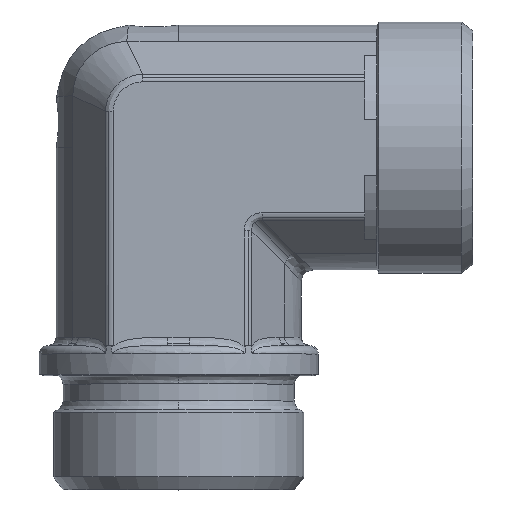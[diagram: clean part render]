
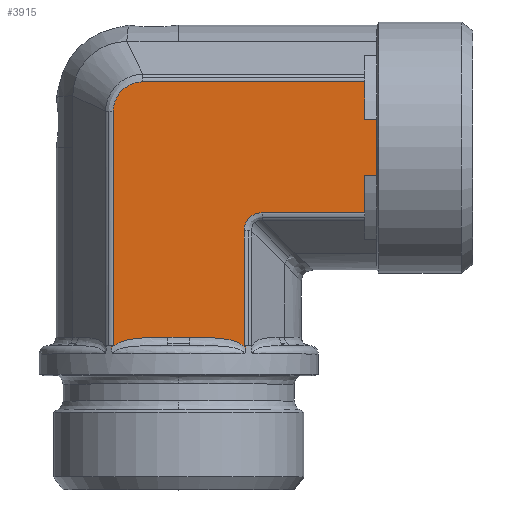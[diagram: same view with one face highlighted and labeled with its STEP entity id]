
A CAD part, top view. The second image highlights one B-rep face of the part: STEP entity #3915.
In plain terms, the highlighted planar face has unit normal (0, 0, 1) as drawn and (0, -1, 0) by its records, which use the part's own axes.
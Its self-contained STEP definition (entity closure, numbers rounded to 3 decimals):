
#319=CARTESIAN_POINT('',(9.429,-20.375,10.897));
#320=VERTEX_POINT('',#319);
#328=CARTESIAN_POINT('',(28.5,-20.375,10.897));
#329=VERTEX_POINT('',#328);
#330=CARTESIAN_POINT('',(9.429,-20.375,10.897));
#331=DIRECTION('',(1.0,0.0,0.0));
#332=VECTOR('',#331,19.071);
#333=LINE('',#330,#332);
#334=EDGE_CURVE('',#320,#329,#333,.T.);
#461=CARTESIAN_POINT('',(-15.397,-20.375,-5.976));
#462=VERTEX_POINT('',#461);
#470=CARTESIAN_POINT('',(-15.397,-20.375,31.0));
#471=VERTEX_POINT('',#470);
#472=CARTESIAN_POINT('',(-15.397,-20.375,-5.976));
#473=DIRECTION('',(0.0,0.0,1.0));
#474=VECTOR('',#473,36.976);
#475=LINE('',#472,#474);
#476=EDGE_CURVE('',#462,#471,#475,.T.);
#3416=CARTESIAN_POINT('',(27.1,-20.375,1.809));
#3417=VERTEX_POINT('',#3416);
#3425=CARTESIAN_POINT('',(27.1,-20.375,-1.809));
#3426=VERTEX_POINT('',#3425);
#3427=CARTESIAN_POINT('',(27.1,-20.375,1.809));
#3428=DIRECTION('',(0.0,0.0,-1.0));
#3429=VECTOR('',#3428,3.618);
#3430=LINE('',#3427,#3429);
#3431=EDGE_CURVE('',#3417,#3426,#3430,.T.);
#3554=CARTESIAN_POINT('',(28.956,-20.375,-11.199));
#3555=VERTEX_POINT('',#3554);
#3588=CARTESIAN_POINT('',(28.958,-20.375,-11.206));
#3589=CARTESIAN_POINT('',(28.504,-20.375,-10.859));
#3590=CARTESIAN_POINT('',(28.192,-20.375,-10.318));
#3591=CARTESIAN_POINT('',(27.439,-20.375,-8.56));
#3592=CARTESIAN_POINT('',(27.279,-20.375,-7.197));
#3593=CARTESIAN_POINT('',(27.133,-20.375,-5.037));
#3594=CARTESIAN_POINT('',(27.114,-20.375,-4.204));
#3595=CARTESIAN_POINT('',(27.101,-20.375,-2.85));
#3596=CARTESIAN_POINT('',(27.1,-20.375,-2.329));
#3597=CARTESIAN_POINT('',(27.1,-20.375,-1.809));
#3598=B_SPLINE_CURVE_WITH_KNOTS('',3,(#3588,#3589,#3590,#3591,#3592,#3593,#3594,#3595,#3596,#3597),.UNSPECIFIED.,.F.,.U.,(4,2,2,2,4),(2.698,4.434,8.431,10.929,12.49),.UNSPECIFIED.);
#3599=EDGE_CURVE('',#3426,#3555,#3598,.F.);
#3717=CARTESIAN_POINT('',(28.956,-20.375,11.199));
#3718=VERTEX_POINT('',#3717);
#3732=CARTESIAN_POINT('',(28.958,-20.375,11.206));
#3733=CARTESIAN_POINT('',(28.504,-20.375,10.859));
#3734=CARTESIAN_POINT('',(28.192,-20.375,10.318));
#3735=CARTESIAN_POINT('',(27.439,-20.375,8.56));
#3736=CARTESIAN_POINT('',(27.279,-20.375,7.197));
#3737=CARTESIAN_POINT('',(27.133,-20.375,5.037));
#3738=CARTESIAN_POINT('',(27.114,-20.375,4.204));
#3739=CARTESIAN_POINT('',(27.101,-20.375,2.85));
#3740=CARTESIAN_POINT('',(27.1,-20.375,2.329));
#3741=CARTESIAN_POINT('',(27.1,-20.375,1.809));
#3742=B_SPLINE_CURVE_WITH_KNOTS('',3,(#3732,#3733,#3734,#3735,#3736,#3737,#3738,#3739,#3740,#3741),.UNSPECIFIED.,.F.,.U.,(4,2,2,2,4),(-9.792,-8.056,-4.059,-1.561,0.),.UNSPECIFIED.);
#3743=EDGE_CURVE('',#3718,#3417,#3742,.T.);
#3789=CARTESIAN_POINT('',(-4.5,-20.375,-3.175));
#3790=DIRECTION('',(0.0,-1.0,0.0));
#3791=DIRECTION('',(0.0,0.0,-1.0));
#3792=AXIS2_PLACEMENT_3D('',#3789,#3790,#3791);
#3793=PLANE('',#3792);
#3794=ORIENTED_EDGE('',*,*,#3599,.F.);
#3795=ORIENTED_EDGE('',*,*,#3431,.F.);
#3796=ORIENTED_EDGE('',*,*,#3743,.F.);
#3797=CARTESIAN_POINT('',(28.5,-20.375,11.199));
#3798=VERTEX_POINT('',#3797);
#3799=CARTESIAN_POINT('',(28.956,-20.375,11.199));
#3800=DIRECTION('',(-1.0,0.0,0.));
#3801=VECTOR('',#3800,0.456);
#3802=LINE('',#3799,#3801);
#3803=EDGE_CURVE('',#3718,#3798,#3802,.T.);
#3804=ORIENTED_EDGE('',*,*,#3803,.T.);
#3805=CARTESIAN_POINT('',(28.5,-20.375,11.199));
#3806=DIRECTION('',(0.0,0.0,-1.0));
#3807=VECTOR('',#3806,0.302);
#3808=LINE('',#3805,#3807);
#3809=EDGE_CURVE('',#3798,#329,#3808,.T.);
#3810=ORIENTED_EDGE('',*,*,#3809,.T.);
#3811=ORIENTED_EDGE('',*,*,#334,.F.);
#3812=CARTESIAN_POINT('',(6.397,-20.375,13.929));
#3813=VERTEX_POINT('',#3812);
#3814=CARTESIAN_POINT('',(10.439,-20.375,14.939));
#3815=DIRECTION('',(0.,-1.,0.));
#3816=DIRECTION('',(-0.707,0.,-0.707));
#3817=AXIS2_PLACEMENT_3D('',#3814,#3815,#3816);
#3818=ELLIPSE('',#3817,4.518,3.5);
#3819=EDGE_CURVE('',#3813,#320,#3818,.T.);
#3820=ORIENTED_EDGE('',*,*,#3819,.F.);
#3821=CARTESIAN_POINT('',(6.397,-20.375,31.));
#3822=VERTEX_POINT('',#3821);
#3823=CARTESIAN_POINT('',(6.397,-20.375,31.));
#3824=DIRECTION('',(0.0,0.0,-1.0));
#3825=VECTOR('',#3824,17.071);
#3826=LINE('',#3823,#3825);
#3827=EDGE_CURVE('',#3822,#3813,#3826,.T.);
#3828=ORIENTED_EDGE('',*,*,#3827,.F.);
#3829=CARTESIAN_POINT('',(0.2,-20.375,31.));
#3830=VERTEX_POINT('',#3829);
#3831=CARTESIAN_POINT('',(6.397,-20.375,31.));
#3832=DIRECTION('',(-1.0,0.0,0.0));
#3833=VECTOR('',#3832,6.198);
#3834=LINE('',#3831,#3833);
#3835=EDGE_CURVE('',#3822,#3830,#3834,.T.);
#3836=ORIENTED_EDGE('',*,*,#3835,.T.);
#3837=CARTESIAN_POINT('',(0.2,-20.375,33.0));
#3838=VERTEX_POINT('',#3837);
#3839=CARTESIAN_POINT('',(0.2,-20.375,31.));
#3840=DIRECTION('',(0.0,0.0,1.0));
#3841=VECTOR('',#3840,2.);
#3842=LINE('',#3839,#3841);
#3843=EDGE_CURVE('',#3830,#3838,#3842,.T.);
#3844=ORIENTED_EDGE('',*,*,#3843,.T.);
#3845=CARTESIAN_POINT('',(-4.5,-20.375,33.0));
#3846=VERTEX_POINT('',#3845);
#3847=CARTESIAN_POINT('',(0.2,-20.375,33.0));
#3848=DIRECTION('',(-1.0,0.0,0.0));
#3849=VECTOR('',#3848,4.7);
#3850=LINE('',#3847,#3849);
#3851=EDGE_CURVE('',#3838,#3846,#3850,.T.);
#3852=ORIENTED_EDGE('',*,*,#3851,.T.);
#3853=CARTESIAN_POINT('',(-9.2,-20.375,33.0));
#3854=VERTEX_POINT('',#3853);
#3855=CARTESIAN_POINT('',(-4.5,-20.375,33.0));
#3856=DIRECTION('',(-1.0,0.0,0.0));
#3857=VECTOR('',#3856,4.7);
#3858=LINE('',#3855,#3857);
#3859=EDGE_CURVE('',#3846,#3854,#3858,.T.);
#3860=ORIENTED_EDGE('',*,*,#3859,.T.);
#3861=CARTESIAN_POINT('',(-9.2,-20.375,31.));
#3862=VERTEX_POINT('',#3861);
#3863=CARTESIAN_POINT('',(-9.2,-20.375,33.0));
#3864=DIRECTION('',(0.0,0.0,-1.0));
#3865=VECTOR('',#3864,2.);
#3866=LINE('',#3863,#3865);
#3867=EDGE_CURVE('',#3854,#3862,#3866,.T.);
#3868=ORIENTED_EDGE('',*,*,#3867,.T.);
#3869=CARTESIAN_POINT('',(-9.2,-20.375,31.));
#3870=DIRECTION('',(-1.0,0.0,0.0));
#3871=VECTOR('',#3870,6.198);
#3872=LINE('',#3869,#3871);
#3873=EDGE_CURVE('',#3862,#471,#3872,.T.);
#3874=ORIENTED_EDGE('',*,*,#3873,.T.);
#3875=ORIENTED_EDGE('',*,*,#476,.F.);
#3876=CARTESIAN_POINT('',(-10.476,-20.375,-10.897));
#3877=VERTEX_POINT('',#3876);
#3878=CARTESIAN_POINT('',(-15.397,-20.375,-5.976));
#3879=CARTESIAN_POINT('',(-15.397,-20.375,-6.296));
#3880=CARTESIAN_POINT('',(-15.365,-20.375,-6.619));
#3881=CARTESIAN_POINT('',(-15.2,-20.375,-7.443));
#3882=CARTESIAN_POINT('',(-15.019,-20.375,-7.929));
#3883=CARTESIAN_POINT('',(-14.359,-20.375,-9.1));
#3884=CARTESIAN_POINT('',(-13.773,-20.375,-9.713));
#3885=CARTESIAN_POINT('',(-12.293,-20.375,-10.637));
#3886=CARTESIAN_POINT('',(-11.385,-20.375,-10.897));
#3887=CARTESIAN_POINT('',(-10.476,-20.375,-10.897));
#3888=B_SPLINE_CURVE_WITH_KNOTS('',3,(#3878,#3879,#3880,#3881,#3882,#3883,#3884,#3885,#3886,#3887),.UNSPECIFIED.,.F.,.U.,(4,2,2,2,4),(-7.686,-6.725,-5.188,-2.729,0.0),.UNSPECIFIED.);
#3889=EDGE_CURVE('',#3877,#462,#3888,.F.);
#3890=ORIENTED_EDGE('',*,*,#3889,.F.);
#3891=CARTESIAN_POINT('',(28.5,-20.375,-10.897));
#3892=VERTEX_POINT('',#3891);
#3893=CARTESIAN_POINT('',(28.5,-20.375,-10.897));
#3894=DIRECTION('',(-1.0,0.0,0.0));
#3895=VECTOR('',#3894,38.976);
#3896=LINE('',#3893,#3895);
#3897=EDGE_CURVE('',#3892,#3877,#3896,.T.);
#3898=ORIENTED_EDGE('',*,*,#3897,.F.);
#3899=CARTESIAN_POINT('',(28.5,-20.375,-11.199));
#3900=VERTEX_POINT('',#3899);
#3901=CARTESIAN_POINT('',(28.5,-20.375,-10.897));
#3902=DIRECTION('',(0.0,0.0,-1.0));
#3903=VECTOR('',#3902,0.302);
#3904=LINE('',#3901,#3903);
#3905=EDGE_CURVE('',#3892,#3900,#3904,.T.);
#3906=ORIENTED_EDGE('',*,*,#3905,.T.);
#3907=CARTESIAN_POINT('',(28.5,-20.375,-11.199));
#3908=DIRECTION('',(1.0,0.0,0.));
#3909=VECTOR('',#3908,0.456);
#3910=LINE('',#3907,#3909);
#3911=EDGE_CURVE('',#3900,#3555,#3910,.T.);
#3912=ORIENTED_EDGE('',*,*,#3911,.T.);
#3913=EDGE_LOOP('',(#3794,#3795,#3796,#3804,#3810,#3811,#3820,#3828,#3836,#3844,#3852,#3860,#3868,#3874,#3875,#3890,#3898,#3906,#3912));
#3914=FACE_OUTER_BOUND('',#3913,.T.);
#3915=ADVANCED_FACE('',(#3914),#3793,.T.);
